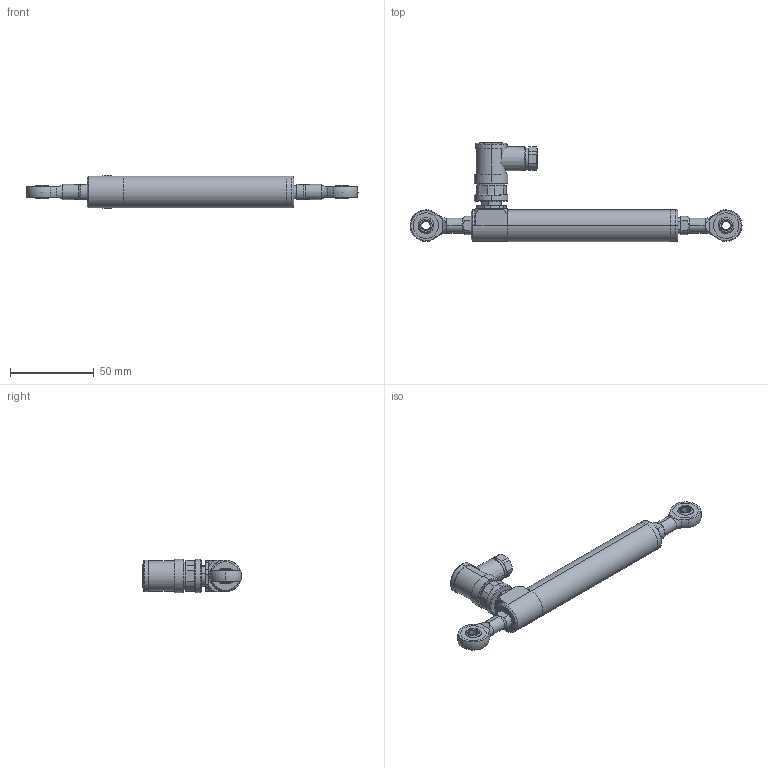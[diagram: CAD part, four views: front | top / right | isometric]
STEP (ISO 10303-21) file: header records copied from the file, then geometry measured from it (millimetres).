
FILE_DESCRIPTION (( 'STEP AP214' ), '1' );
FILE_NAME ('P117-5AKNU.STEP', '2025-04-10T10:29:15', ( '' ), ( '' ), 'SwSTEP 2.0', 'SolidWorks 2023', '' );
FILE_SCHEMA (( 'AUTOMOTIVE_DESIGN' ));
Length unit declared in the file: millimetre
Products named in the file (1): P117-5AKNU
Bounding box: 198.5 x 59.23 x 20 mm (x, y, z)
Surface area: 17038.6 mm2 (no closed solid volume)
Topology: 0 solids, 16 shells, 224 faces, 595 edges, 389 vertices
Faces by surface type: plane 82, cylinder 62, cone 43, bspline 13, torus 12, sphere 12
Entity records: 7636 total; most frequent: CARTESIAN_POINT 2344, DIRECTION 1116, ORIENTED_EDGE 1054, EDGE_CURVE 571, AXIS2_PLACEMENT_3D 475, VERTEX_POINT 377, CIRCLE 263, EDGE_LOOP 256
